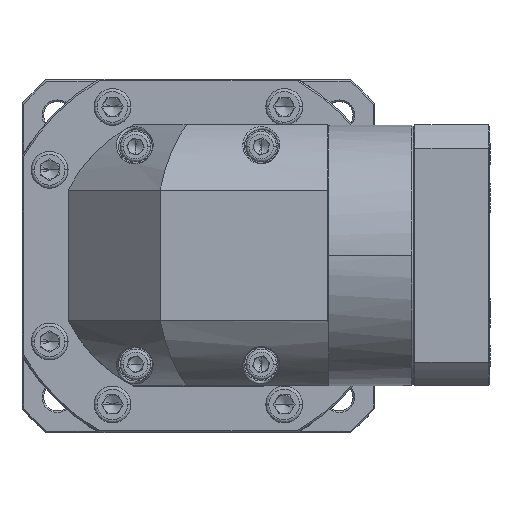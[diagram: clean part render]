
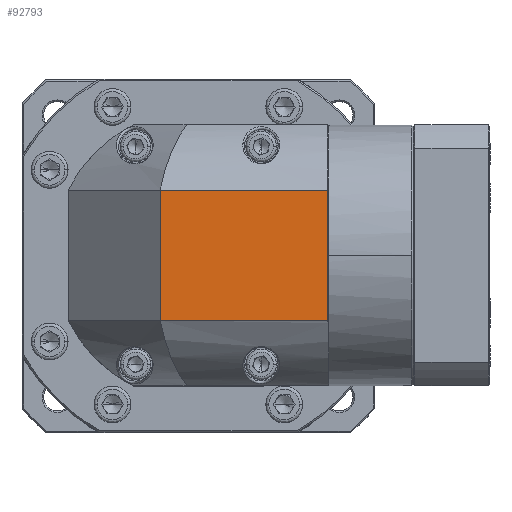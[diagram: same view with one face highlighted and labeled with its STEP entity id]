
A CAD part, top view. The second image highlights one B-rep face of the part: STEP entity #92793.
In plain terms, the highlighted planar face has unit normal (0, 0, 1).
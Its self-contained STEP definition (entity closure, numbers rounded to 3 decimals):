
#1450 = PLANE ( 'NONE',  #72059 ) ;
#2855 = ORIENTED_EDGE ( 'NONE', *, *, #59026, .F. ) ;
#8562 = VECTOR ( 'NONE', #141062, 1000. ) ;
#20313 = VERTEX_POINT ( 'NONE', #93875 ) ;
#22245 = EDGE_CURVE ( 'NONE', #25967, #104644, #133547, .T. ) ;
#25967 = VERTEX_POINT ( 'NONE', #105177 ) ;
#34668 = LINE ( 'NONE', #92134, #146797 ) ;
#36778 = DIRECTION ( 'NONE',  ( 1., 0., 0. ) ) ;
#44084 = LINE ( 'NONE', #84923, #8562 ) ;
#44126 = EDGE_LOOP ( 'NONE', ( #2855, #50839, #70508, #130523 ) ) ;
#45429 = LINE ( 'NONE', #91960, #95233 ) ;
#50839 = ORIENTED_EDGE ( 'NONE', *, *, #58001, .F. ) ;
#51158 = CARTESIAN_POINT ( 'NONE',  ( 27.611, 52.573, 31.809 ) ) ;
#58001 = EDGE_CURVE ( 'NONE', #104644, #20313, #44084, .T. ) ;
#59026 = EDGE_CURVE ( 'NONE', #20313, #72198, #34668, .T. ) ;
#69369 = CARTESIAN_POINT ( 'NONE',  ( 82.111, 95., 31.809 ) ) ;
#69500 = EDGE_CURVE ( 'NONE', #25967, #72198, #45429, .T. ) ;
#70508 = ORIENTED_EDGE ( 'NONE', *, *, #22245, .F. ) ;
#70672 = CARTESIAN_POINT ( 'NONE',  ( 40.111, 73.786, 31.809 ) ) ;
#72059 = AXIS2_PLACEMENT_3D ( 'NONE', #70672, #80589, #36778 ) ;
#72198 = VERTEX_POINT ( 'NONE', #69369 ) ;
#72712 = FACE_OUTER_BOUND ( 'NONE', #44126, .T. ) ;
#80589 = DIRECTION ( 'NONE',  ( 0., 0., 1. ) ) ;
#84923 = CARTESIAN_POINT ( 'NONE',  ( 27.611, 73.786, 31.809 ) ) ;
#91960 = CARTESIAN_POINT ( 'NONE',  ( 82.111, 73.786, 31.809 ) ) ;
#92134 = CARTESIAN_POINT ( 'NONE',  ( -17.889, 95., 31.809 ) ) ;
#92793 = ADVANCED_FACE ( 'NONE', ( #72712 ), #1450, .T. ) ;
#93875 = CARTESIAN_POINT ( 'NONE',  ( 27.611, 95., 31.809 ) ) ;
#95233 = VECTOR ( 'NONE', #126221, 1000. ) ;
#104644 = VERTEX_POINT ( 'NONE', #51158 ) ;
#105076 = VECTOR ( 'NONE', #112662, 1000. ) ;
#105177 = CARTESIAN_POINT ( 'NONE',  ( 82.111, 52.573, 31.809 ) ) ;
#112662 = DIRECTION ( 'NONE',  ( -1., 0., 0. ) ) ;
#126221 = DIRECTION ( 'NONE',  ( 0., 1., 0. ) ) ;
#129850 = DIRECTION ( 'NONE',  ( 1., 0., 0. ) ) ;
#130523 = ORIENTED_EDGE ( 'NONE', *, *, #69500, .T. ) ;
#133547 = LINE ( 'NONE', #145991, #105076 ) ;
#141062 = DIRECTION ( 'NONE',  ( 0., 1., 0. ) ) ;
#145991 = CARTESIAN_POINT ( 'NONE',  ( -17.889, 52.573, 31.809 ) ) ;
#146797 = VECTOR ( 'NONE', #129850, 1000. ) ;
